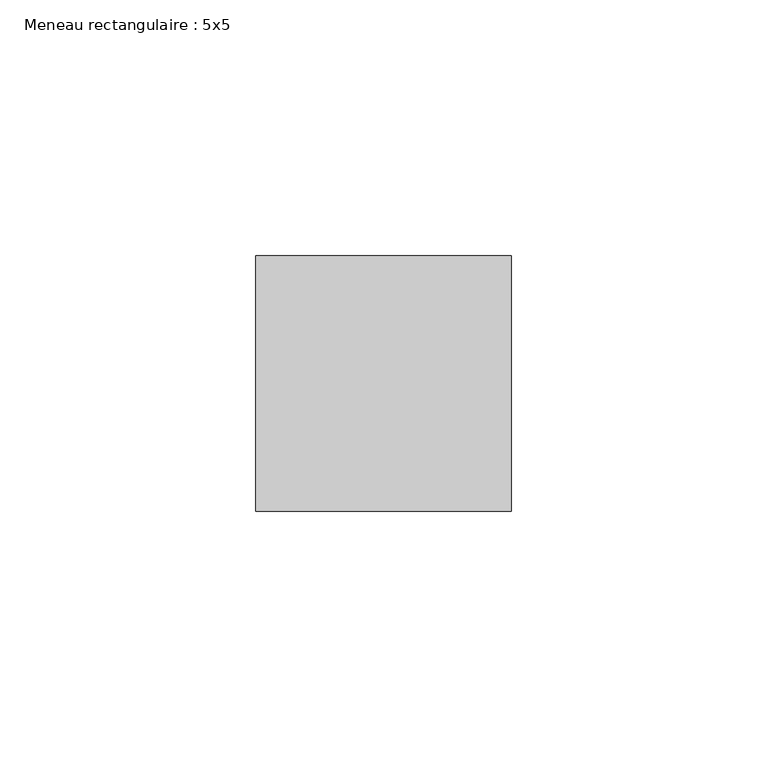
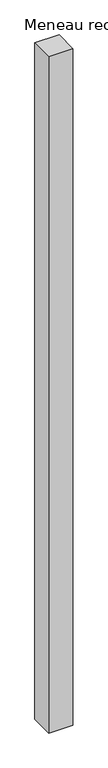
"""IFC4 building model written with IfcOpenShell, lengths in millimetres: member geometry, Meneau rectangulaire : 5x5."""

import ifcopenshell
import ifcopenshell.guid

model = None  # the IFC model being written
_history = None  # IfcOwnerHistory: only IFC2X3 demands one
_inside = {}  # id of a spatial element -> (the spatial element, [elements in it])
_under = {}  # id of a project, library or spatial element -> (it, [spatial elements below it])
_declared = {}  # id of a project -> (the project, [libraries it declares])
_typed = {}  # id of a type object -> (the type object, [elements of that type])
_made_of = {}  # id of a material, layer set ... -> (it, [elements and type objects made of it])


def new_model(schema):
    """Start an empty IFC model of exactly this schema.

    Asked for "IFC4X3", IfcOpenShell would pick the latest addendum, in which some entities
    have other attributes; the version numbers below select the first issue.
    IFC2X3 requires an IfcOwnerHistory on every rooted entity: one is made here for all.
    """
    global model, _history
    if schema == "IFC4X3":
        model = ifcopenshell.file(schema_version=(4, 3, 0, 0))
    else:
        model = ifcopenshell.file(schema=schema)
    _inside.clear()
    _under.clear()
    _declared.clear()
    _typed.clear()
    _made_of.clear()
    _history = None
    if model.schema == "IFC2X3":
        org = make("IfcOrganization", Name="unknown")
        user = make(
            "IfcPersonAndOrganization",
            ThePerson=make("IfcPerson", FamilyName="unknown"),
            TheOrganization=org,
        )
        app = make(
            "IfcApplication",
            ApplicationDeveloper=org,
            Version="unknown",
            ApplicationFullName="unknown",
            ApplicationIdentifier="unknown",
        )
        _history = make(
            "IfcOwnerHistory",
            OwningUser=user,
            OwningApplication=app,
            ChangeAction="ADDED",
            CreationDate=0,
        )
    return model


def make(cls, **values):
    """One entity of the class cls with the attributes given. An attribute that is None is left unset."""
    return model.create_entity(
        cls, **{name: value for name, value in values.items() if value is not None}
    )


def rooted(cls, **values):
    """An entity with a GlobalId (a new one), such as an element, a storey or a relation."""
    return make(cls, GlobalId=ifcopenshell.guid.new(), OwnerHistory=_history, **values)


def si_unit(unit_type, name, prefix=None):
    """IfcSIUnit, for example si_unit("LENGTHUNIT", "METRE", prefix="MILLI")."""
    return make("IfcSIUnit", UnitType=unit_type, Prefix=prefix, Name=name)


def assignment(units):
    """IfcUnitAssignment: the units of a project."""
    return None if units is None else make("IfcUnitAssignment", Units=units)


def point(xyz):
    """IfcCartesianPoint."""
    return None if xyz is None else make("IfcCartesianPoint", Coordinates=xyz)


def direction(xyz):
    """IfcDirection."""
    return None if xyz is None else make("IfcDirection", DirectionRatios=xyz)


def frame(location, z_axis=None, x_axis=None):
    """IfcAxis2Placement3D, a coordinate frame: its origin and axes. An axis left out is left unset."""
    return make(
        "IfcAxis2Placement3D",
        Location=point(location),
        Axis=direction(z_axis),
        RefDirection=direction(x_axis),
    )


def origin():
    """The frame at (0, 0, 0) with its axes left unset."""
    return frame((0.0, 0.0, 0.0))


def place(relative_to, where):
    """IfcLocalPlacement: puts the frame where relative to a parent placement (None: the world)."""
    return make(
        "IfcLocalPlacement", PlacementRelTo=relative_to, RelativePlacement=where
    )


def context(
    kind, dimensions, precision=None, world=None, true_north=None, identifier=None
):
    """IfcGeometricRepresentationContext, for example the 3D "Model" context."""
    return make(
        "IfcGeometricRepresentationContext",
        ContextIdentifier=identifier,
        ContextType=kind,
        CoordinateSpaceDimension=dimensions,
        Precision=precision,
        WorldCoordinateSystem=world,
        TrueNorth=true_north,
    )


def project(units=None, contexts=None):
    """IfcProject with its units and contexts."""
    return rooted(
        "IfcProject",
        Name="project",
        RepresentationContexts=contexts,
        UnitsInContext=assignment(units),
    )


def spatial(cls, under=None, at=None, **own):
    """A site, building, storey or space (cls), placed at a placement, below another one or the project."""
    s = rooted(cls, ObjectPlacement=at, **own)
    if under is not None:
        _under.setdefault(under.id(), (under, []))[1].append(s)
    return s


def polyline(points):
    """IfcPolyline through the points."""
    return make("IfcPolyline", Points=[point(p) for p in points])


def outline(outer, holes=None, kind="AREA"):
    """IfcArbitraryClosedProfileDef: a profile drawn as a closed curve; with holes, ...WithVoids."""
    if holes is None:
        return make("IfcArbitraryClosedProfileDef", ProfileType=kind, OuterCurve=outer)
    return make(
        "IfcArbitraryProfileDefWithVoids",
        ProfileType=kind,
        OuterCurve=outer,
        InnerCurves=holes,
    )


def extrude(swept, where, along, depth):
    """IfcExtrudedAreaSolid: the profile swept, set in the frame where, extruded along a direction by depth."""
    return make(
        "IfcExtrudedAreaSolid",
        SweptArea=swept,
        Position=where,
        ExtrudedDirection=direction(along),
        Depth=depth,
    )


def shape(context_of_items, identifier, shape_type, items):
    """IfcShapeRepresentation: the items that make up one representation, for example the "Body"."""
    return make(
        "IfcShapeRepresentation",
        ContextOfItems=context_of_items,
        RepresentationIdentifier=identifier,
        RepresentationType=shape_type,
        Items=items,
    )


def source(mapping_origin, context_of_items, identifier, shape_type, items):
    """IfcRepresentationMap: a shape defined once, which mapped items show again and again."""
    return make(
        "IfcRepresentationMap",
        MappingOrigin=mapping_origin,
        MappedRepresentation=shape(context_of_items, identifier, shape_type, items),
    )


def transform(
    local_origin,
    x_axis=None,
    y_axis=None,
    z_axis=None,
    scale=None,
    scale2=None,
    scale3=None,
    uniform=True,
):
    """IfcCartesianTransformationOperator3D, or its non-uniform kind. x_axis, y_axis, z_axis: its Axis1, 2, 3."""
    if uniform:
        return make(
            "IfcCartesianTransformationOperator3D",
            Axis1=direction(x_axis),
            Axis2=direction(y_axis),
            LocalOrigin=point(local_origin),
            Scale=scale,
            Axis3=direction(z_axis),
        )
    return make(
        "IfcCartesianTransformationOperator3DnonUniform",
        Axis1=direction(x_axis),
        Axis2=direction(y_axis),
        LocalOrigin=point(local_origin),
        Scale=scale,
        Axis3=direction(z_axis),
        Scale2=scale2,
        Scale3=scale3,
    )


def mapped(mapping_source, mapping_target):
    """IfcMappedItem: shows the shape of a source again, moved by a transform."""
    return make(
        "IfcMappedItem", MappingSource=mapping_source, MappingTarget=mapping_target
    )


def made_of(thing, what):
    """Note that an element or type object is made of a material, layer set ...; save() writes the relation."""
    if what is not None:
        _made_of.setdefault(what.id(), (what, []))[1].append(thing)
    return thing


def element(
    cls,
    number,
    at=None,
    inside=None,
    cuts=None,
    type_object=None,
    material=None,
    context=None,
    identifier="Body",
    shape_type=None,
    held_by="IfcProductDefinitionShape",
    body=None,
    shapes=None,
    **own,
):
    """One element of the class cls, such as IfcWall. Its Tag is "e" and its number.

    at: its placement. inside: the storey or other place that contains it. cuts: it is an
    opening in that element (IfcRelVoidsElement). A single representation is given by context,
    identifier, shape_type and body (its items); several are given by shapes. held_by: the class
    of the entity that holds the representations. save() writes the other relations.
    """
    e = rooted(cls, Tag="e%d" % number, ObjectPlacement=at, **own)
    if body is not None:
        shapes = [shape(context, identifier, shape_type, body)]
    if shapes is not None:
        e.Representation = make(held_by, Representations=shapes)
    if inside is not None:
        _inside.setdefault(inside.id(), (inside, []))[1].append(e)
    if cuts is not None:
        rooted(
            "IfcRelVoidsElement", RelatingBuildingElement=cuts, RelatedOpeningElement=e
        )
    if type_object is not None:
        _typed.setdefault(type_object.id(), (type_object, []))[1].append(e)
    return made_of(e, material)


def aggregate(whole, parts):
    """IfcRelAggregates: a whole, such as a stair, and the parts it consists of."""
    return rooted("IfcRelAggregates", RelatingObject=whole, RelatedObjects=parts)


def save(model, path):
    """Write the relations noted so far, then the file.

    IfcRelAggregates (storeys below a building ...), IfcRelContainedInSpatialStructure (elements
    in a storey), IfcRelDefinesByType, IfcRelAssociatesMaterial and IfcRelDeclares: one each for
    every whole, place, type object, material and project.
    """
    for whole, parts in _under.values():
        aggregate(whole, parts)
    for where, things in _inside.values():
        rooted(
            "IfcRelContainedInSpatialStructure",
            RelatedElements=things,
            RelatingStructure=where,
        )
    for kind, things in _typed.values():
        rooted("IfcRelDefinesByType", RelatedObjects=things, RelatingType=kind)
    for what, things in _made_of.values():
        rooted("IfcRelAssociatesMaterial", RelatedObjects=things, RelatingMaterial=what)
    for by, libraries in _declared.values():
        rooted("IfcRelDeclares", RelatingContext=by, RelatedDefinitions=libraries)
    model.write(path)


def meneau_rectangulaire_5x5_2b1de0a5(model_context):
    return source(origin(), model_context, "Body", "SweptSolid", [
        extrude(outline(polyline([(0.0, 25.0), (0.0, -25.0), (-50.0, -25.0), (-50.0, 25.0), (0.0, 25.0)])), frame((0.0, 0.0, -1483.3065473), z_axis=(0.0, 0.0, 1.0), x_axis=(1.0, 0.0, 0.0)), (0.0, 0.0, 1.0), 1483.3065473),
    ])


if __name__ == "__main__":
    model = new_model("IFC4")
    model_context = context("Model", 3, world=origin())
    ifc_project = project(units=[si_unit("LENGTHUNIT", "METRE", prefix="MILLI")], contexts=[model_context])
    site = spatial("IfcSite", under=ifc_project)
    building = spatial("IfcBuilding", under=site)
    placement = place(None, origin())
    meneau_rectangulaire_5x5_shape = meneau_rectangulaire_5x5_2b1de0a5(model_context)
    element("IfcMember", 1, ObjectType="Meneau rectangulaire : 5x5", at=placement, inside=building, context=model_context, shape_type="MappedRepresentation", body=[
        mapped(meneau_rectangulaire_5x5_shape, transform((0.0, 0.0, 0.0), x_axis=(1.0, 0.0, 0.0), y_axis=(0.0, 1.0, 0.0), z_axis=(0.0, 0.0, 1.0))),
    ])
    save(model, "model.ifc")
